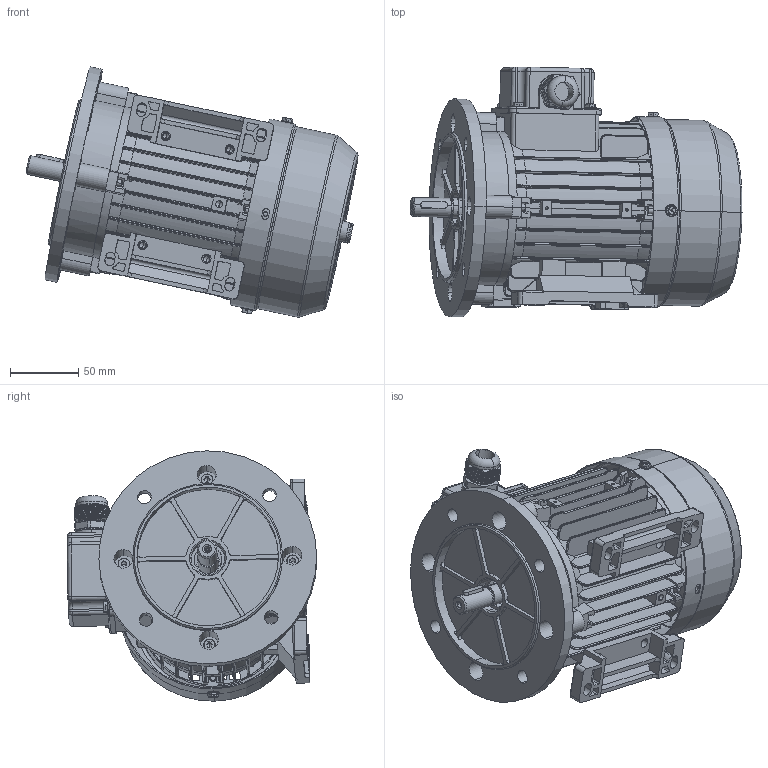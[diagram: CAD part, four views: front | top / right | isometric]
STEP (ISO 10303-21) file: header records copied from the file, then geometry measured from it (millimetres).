
FILE_DESCRIPTION (( 'STEP AP203' ), '1' );
FILE_NAME ('MSL71 assembly B35.STEP', '2017-11-26T09:38:48', ( 'user' ), ( 'china' ), 'SwSTEP 2.0', 'SolidWorks 2016', '' );
FILE_SCHEMA (( 'CONFIG_CONTROL_DESIGN' ));
Length unit declared in the file: millimetre
Products named in the file (14): GB-T 70.1-2000 M5_20; MSL71 assembly B35; M71瑞欶_69; MS71 綴裔瑞欶郪磁; M71傷裔B5; MSL71-儂褲-L114; MSL63-71堤盄碟蚾饜; M71傷裔B3_Post; M20 cable gland; M71菁褐; MSL63-71堤盄碟; GB-T 29.2-1988 M4鞠褒坋趼湍菜_05; M71-Shaft ; GB-T 5780-2000 M5_020
Assembly tree (26 placements, depth 3):
  MSL71 assembly B35
    MSL71-儂褲-L114
    M71菁褐  x2
    M71-Shaft 
    MS71 綴裔瑞欶郪磁
      M71傷裔B3_Post
      M71瑞欶_69
      GB-T 29.2-1988 M4鞠褒坋趼湍菜_05  x3
    MSL63-71堤盄碟蚾饜
      MSL63-71堤盄碟
      GB-T 29.2-1988 M4鞠褒坋趼湍菜_05  x4
      M20 cable gland
    GB-T 70.1-2000 M5_20  x4
    GB-T 5780-2000 M5_020  x4
    M71傷裔B5
Bounding box: 243.88 x 183.52 x 183.95 mm (x, y, z)
Volume: 594359.4 mm3; surface area: 446332.9 mm2
Topology: 24 solids, 24 shells, 3166 faces, 8146 edges, 5074 vertices
Faces by surface type: plane 1504, cylinder 1065, cone 222, bspline 218, torus 157
Entity records: 103416 total; most frequent: CARTESIAN_POINT 37790, ORIENTED_EDGE 13872, DIRECTION 12684, EDGE_CURVE 6936, AXIS2_PLACEMENT_3D 4444, VERTEX_POINT 4403, LINE 3796, VECTOR 3796
